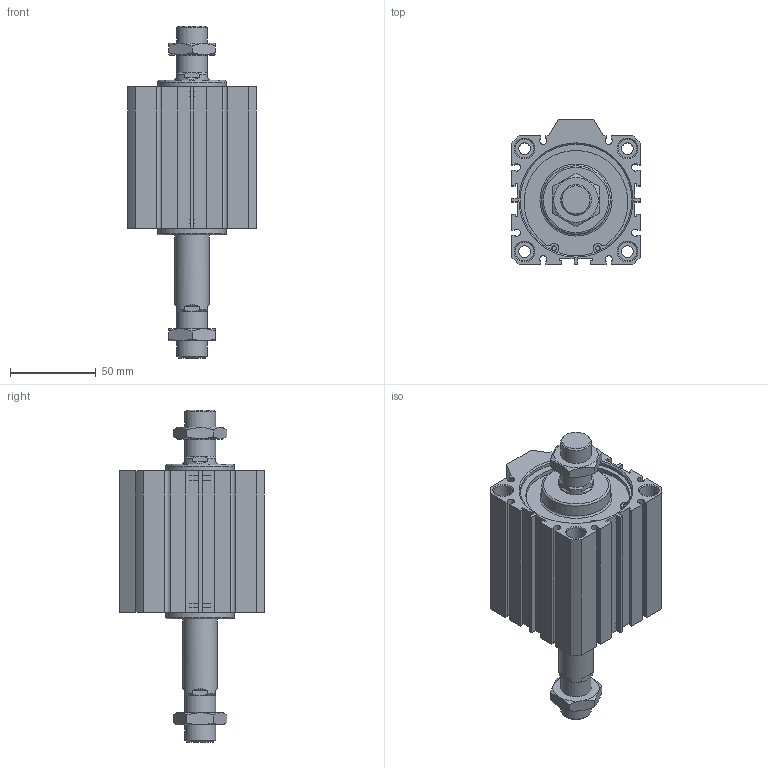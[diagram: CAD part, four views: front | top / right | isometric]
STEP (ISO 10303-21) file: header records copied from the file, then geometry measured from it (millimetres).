
FILE_DESCRIPTION((''),'2;1');
FILE_NAME('I:\3D電子目錄\氣缸\JDD\JDD-BS\JDD63-BS\JDD63x40-BS.stp','2007-02-27T15:19:21',('662F206'),(''),'Autodesk Inventor 10','Autodesk Inventor 10','');
FILE_SCHEMA(('AUTOMOTIVE_DESIGN { 1 0 10303 214 1 1 1 1 }'));
Length unit declared in the file: millimetre
Products named in the file (3): JDD63-BS; R 形環 65
Assembly tree (3 placements, depth 2):
  JDD63-BS
    JDD63-BS
    R 形環 65  x2
Bounding box: 75 x 84.5 x 193.5 mm (x, y, z)
Volume: 462923.1 mm3; surface area: 73848.3 mm2
Topology: 3 solids, 3 shells, 230 faces, 558 edges, 360 vertices
Faces by surface type: plane 132, cylinder 56, cone 38, bspline 2, torus 2
Full cylindrical faces by diameter (mm): 2.7 x4, 3 x2, 6.8 x4, 11 x8, 18 x4, 20 x2, 40 x2, 65 x4, 68 x2
Entity records: 6147 total; most frequent: CARTESIAN_POINT 1216, DIRECTION 1012, ORIENTED_EDGE 936, EDGE_CURVE 468, AXIS2_PLACEMENT_3D 374, VERTEX_POINT 332, EDGE_LOOP 308, VECTOR 264
